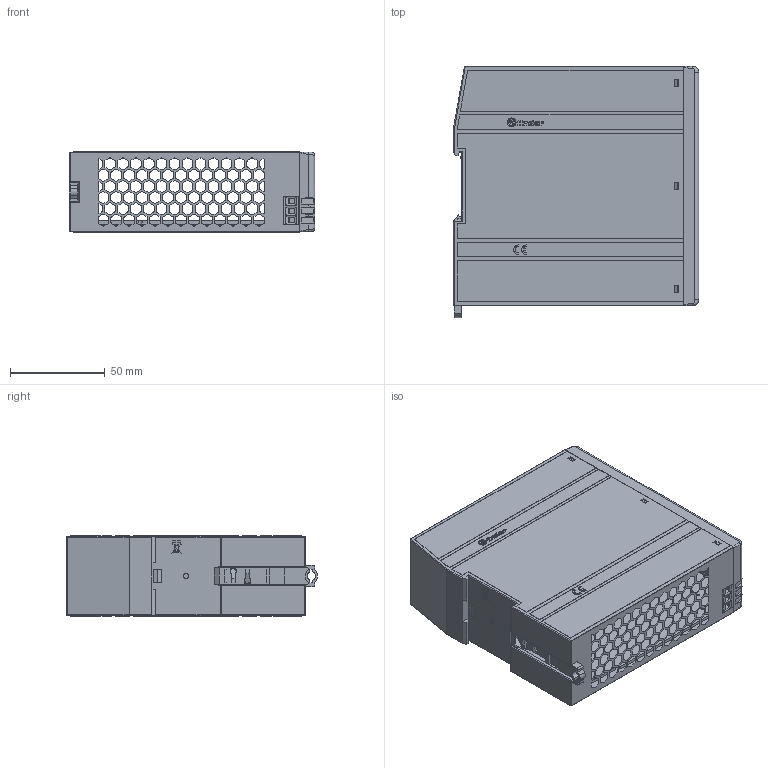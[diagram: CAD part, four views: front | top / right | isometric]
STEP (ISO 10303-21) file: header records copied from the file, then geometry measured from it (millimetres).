
FILE_DESCRIPTION(/* description */ ('Unknown'),/* implementation_level */ '2;1');
FILE_NAME(/* name */ '781A',/* time_stamp */ '2019-09-23T08:53:00+02:00',/* author */ ('Unknown'),/* organization */ ('Unknown'),/* preprocessor_version */ 'ST-DEVELOPER v16.7',/* originating_system */ 'DEX',/* authorisation */ $);
FILE_SCHEMA (('AUTOMOTIVE_DESIGN {1 0 10303 214 3 1 1}'));
Length unit declared in the file: millimetre
Products named in the file (1): Complessivo 781A - completo
Bounding box: 129.3 x 132.35 x 42.5 mm (x, y, z)
Surface area: 69076.6 mm2 (no closed solid volume)
Topology: 0 solids, 46 shells, 821 faces, 4394 edges, 3622 vertices
Faces by surface type: plane 649, cylinder 107, bspline 54, torus 9, sphere 2
Full cylindrical faces by diameter (mm): 3 x2, 3.8 x14, 4.566 x2
Entity records: 45988 total; most frequent: CARTESIAN_POINT 11299, DIRECTION 7007, ORIENTED_EDGE 6156, EDGE_CURVE 4350, VERTEX_POINT 3604, LINE 2981, VECTOR 2981, AXIS2_PLACEMENT_3D 2013
